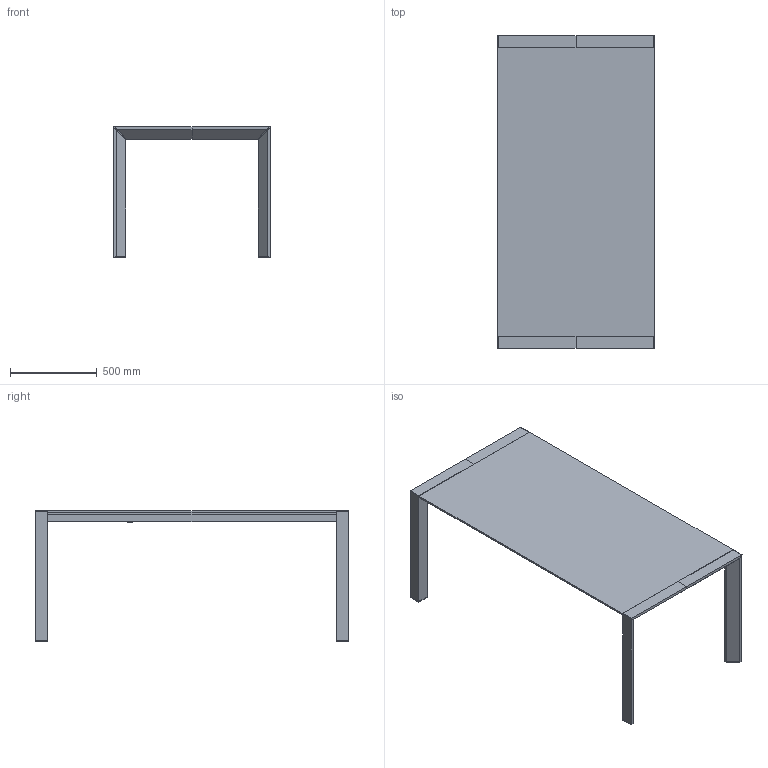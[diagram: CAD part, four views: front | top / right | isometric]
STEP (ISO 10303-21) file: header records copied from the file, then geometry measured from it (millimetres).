
FILE_DESCRIPTION(/* description */ (''),/* implementation_level */ '2;1');
FILE_NAME(/* name */ '10672 - Afill 180x90',/* time_stamp */ '2010-11-03T15:13:35+01:00',/* author */ (''),/* organization */ (''),/* preprocessor_version */ 'ST-DEVELOPER v10',/* originating_system */ '',/* authorisation */ '');
FILE_SCHEMA (('CONFIG_CONTROL_DESIGN'));
Length unit declared in the file: centimetre
Products named in the file (1): 1
Bounding box: 902.24 x 1800.6 x 751.1 mm (x, y, z)
Volume: 48808510.8 mm3; surface area: 7125203.2 mm2
Topology: 14 solids, 14 shells, 166 faces, 380 edges, 250 vertices
Faces by surface type: plane 166
Entity records: 4158 total; most frequent: CARTESIAN_POINT 1258, ORIENTED_EDGE 760, EDGE_CURVE 380, B_SPLINE_CURVE_WITH_KNOTS 380, VERTEX_POINT 250, EDGE_LOOP 174, DIRECTION 170, AXIS2_PLACEMENT_3D 168
